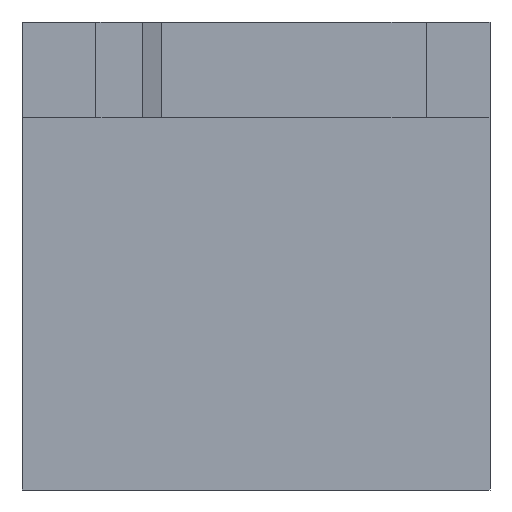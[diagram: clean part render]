
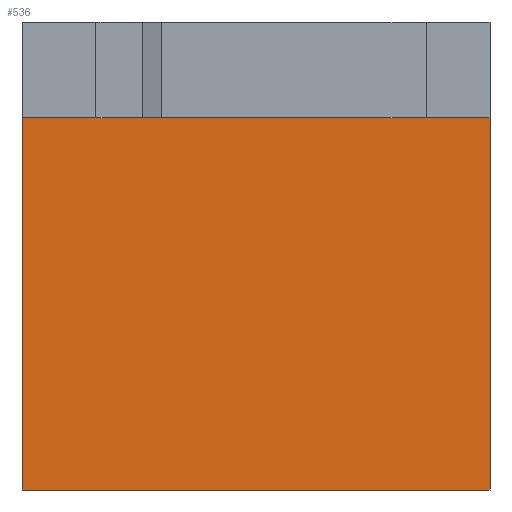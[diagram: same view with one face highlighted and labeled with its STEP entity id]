
A CAD part, front view. The second image highlights one B-rep face of the part: STEP entity #536.
In plain terms, the highlighted planar face has unit normal (0, -1, 0).
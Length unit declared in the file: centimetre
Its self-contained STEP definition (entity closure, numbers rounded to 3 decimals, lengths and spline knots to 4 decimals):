
#118 = VECTOR ( 'NONE', #398, 100. ) ;
#163 = CARTESIAN_POINT ( 'NONE',  ( 0., 0., 1000. ) ) ;
#201 = ORIENTED_EDGE ( 'NONE', *, *, #953, .T. ) ;
#227 = VERTEX_POINT ( 'NONE', #1452 ) ;
#276 = VERTEX_POINT ( 'NONE', #1324 ) ;
#304 = PLANE ( 'NONE',  #585 ) ;
#309 = ORIENTED_EDGE ( 'NONE', *, *, #1613, .T. ) ;
#324 = DIRECTION ( 'NONE',  ( 1., 0., 0. ) ) ;
#357 = VECTOR ( 'NONE', #714, 100. ) ;
#398 = DIRECTION ( 'NONE',  ( 0., 0., -1. ) ) ;
#523 = EDGE_CURVE ( 'NONE', #1003, #227, #847, .T. ) ;
#536 = ADVANCED_FACE ( 'NONE', ( #960 ), #304, .F. ) ;
#551 = CARTESIAN_POINT ( 'NONE',  ( 1000., 0., 1000. ) ) ;
#585 = AXIS2_PLACEMENT_3D ( 'NONE', #163, #1541, #1402 ) ;
#634 = LINE ( 'NONE', #1483, #1675 ) ;
#714 = DIRECTION ( 'NONE',  ( 1., 0., 0. ) ) ;
#816 = ORIENTED_EDGE ( 'NONE', *, *, #523, .F. ) ;
#847 = LINE ( 'NONE', #551, #118 ) ;
#874 = ORIENTED_EDGE ( 'NONE', *, *, #1068, .F. ) ;
#953 = EDGE_CURVE ( 'NONE', #1712, #227, #1540, .T. ) ;
#960 = FACE_OUTER_BOUND ( 'NONE', #1095, .T. ) ;
#1003 = VERTEX_POINT ( 'NONE', #1656 ) ;
#1068 = EDGE_CURVE ( 'NONE', #276, #1003, #634, .T. ) ;
#1095 = EDGE_LOOP ( 'NONE', ( #816, #874, #309, #201 ) ) ;
#1152 = VECTOR ( 'NONE', #1201, 100. ) ;
#1201 = DIRECTION ( 'NONE',  ( 0., 0., -1. ) ) ;
#1227 = CARTESIAN_POINT ( 'NONE',  ( 0., 0., 0. ) ) ;
#1324 = CARTESIAN_POINT ( 'NONE',  ( 0., 0., 795.2491 ) ) ;
#1371 = CARTESIAN_POINT ( 'NONE',  ( 0., 0., 1000. ) ) ;
#1402 = DIRECTION ( 'NONE',  ( 0., 0., 1. ) ) ;
#1452 = CARTESIAN_POINT ( 'NONE',  ( 1000., 0., 0. ) ) ;
#1483 = CARTESIAN_POINT ( 'NONE',  ( 0., 0., 795.2491 ) ) ;
#1540 = LINE ( 'NONE', #1227, #357 ) ;
#1541 = DIRECTION ( 'NONE',  ( 0., 1., 0. ) ) ;
#1613 = EDGE_CURVE ( 'NONE', #276, #1712, #1642, .T. ) ;
#1642 = LINE ( 'NONE', #1371, #1152 ) ;
#1656 = CARTESIAN_POINT ( 'NONE',  ( 1000., 0., 795.2491 ) ) ;
#1675 = VECTOR ( 'NONE', #324, 100. ) ;
#1707 = CARTESIAN_POINT ( 'NONE',  ( 0., 0., 0. ) ) ;
#1712 = VERTEX_POINT ( 'NONE', #1707 ) ;
